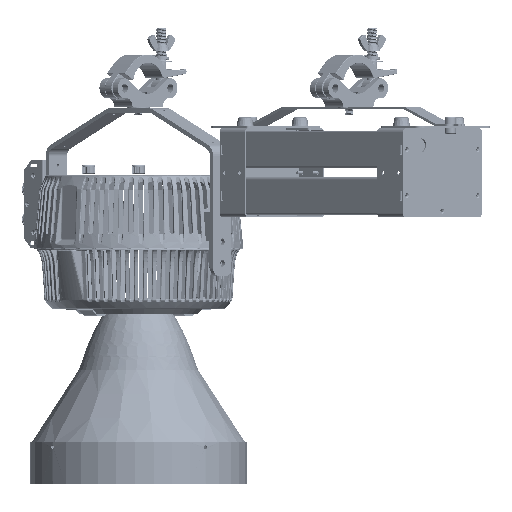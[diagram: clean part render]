
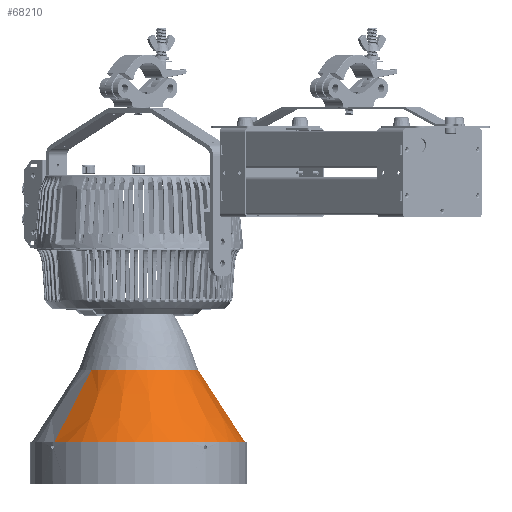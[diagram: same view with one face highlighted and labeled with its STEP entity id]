
A CAD part, front view. The second image highlights one B-rep face of the part: STEP entity #68210.
In plain terms, the highlighted conical face has half-angle 33 degrees and reference radius 123.852 mm.
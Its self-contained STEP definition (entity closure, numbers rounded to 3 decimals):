
#36346 = CARTESIAN_POINT ( 'NONE',  ( 123.852, 36.572, 0. ) ) ;
#43737 = CARTESIAN_POINT ( 'NONE',  ( -123.852, 36.572, 0. ) ) ;
#48078 = VERTEX_POINT ( 'NONE', #397910 ) ;
#68210 = ADVANCED_FACE ( 'NONE', ( #343984 ), #232076, .T. ) ;
#74261 = EDGE_CURVE ( 'NONE', #124816, #48078, #339461, .T. ) ;
#79689 = DIRECTION ( 'NONE',  ( -1., 0., 0. ) ) ;
#83424 = CARTESIAN_POINT ( 'NONE',  ( -123.852, 36.572, 0. ) ) ;
#85831 = CARTESIAN_POINT ( 'NONE',  ( 0., 36.572, 0. ) ) ;
#86327 = VECTOR ( 'NONE', #239666, 1000. ) ;
#87972 = VERTEX_POINT ( 'NONE', #36346 ) ;
#89743 = CIRCLE ( 'NONE', #222931, 123.852 ) ;
#105743 = AXIS2_PLACEMENT_3D ( 'NONE', #185868, #310734, #279497 ) ;
#124816 = VERTEX_POINT ( 'NONE', #335096 ) ;
#131497 = ORIENTED_EDGE ( 'NONE', *, *, #74261, .T. ) ;
#144467 = LINE ( 'NONE', #269344, #308736 ) ;
#147348 = VERTEX_POINT ( 'NONE', #43737 ) ;
#150636 = EDGE_CURVE ( 'NONE', #124816, #87972, #144467, .T. ) ;
#160104 = AXIS2_PLACEMENT_3D ( 'NONE', #201103, #167868, #173977 ) ;
#167868 = DIRECTION ( 'NONE',  ( 0., 1., 0. ) ) ;
#173977 = DIRECTION ( 'NONE',  ( -1., 0., 0. ) ) ;
#185868 = CARTESIAN_POINT ( 'NONE',  ( 0., 36.572, 0. ) ) ;
#201103 = CARTESIAN_POINT ( 'NONE',  ( 0., -47.228, 0. ) ) ;
#221550 = ORIENTED_EDGE ( 'NONE', *, *, #150636, .F. ) ;
#222931 = AXIS2_PLACEMENT_3D ( 'NONE', #85831, #364805, #79689 ) ;
#232076 = CONICAL_SURFACE ( 'NONE', #105743, 123.852, 0.576 ) ;
#239666 = DIRECTION ( 'NONE',  ( -0.545, 0.839, 0. ) ) ;
#269344 = CARTESIAN_POINT ( 'NONE',  ( 123.852, 36.572, 0. ) ) ;
#273994 = ORIENTED_EDGE ( 'NONE', *, *, #365077, .T. ) ;
#279497 = DIRECTION ( 'NONE',  ( -1., 0., 0. ) ) ;
#304646 = DIRECTION ( 'NONE',  ( 0.545, 0.839, 0. ) ) ;
#304739 = EDGE_CURVE ( 'NONE', #87972, #147348, #89743, .T. ) ;
#308736 = VECTOR ( 'NONE', #304646, 1000. ) ;
#310734 = DIRECTION ( 'NONE',  ( 0., 1., 0. ) ) ;
#326859 = EDGE_LOOP ( 'NONE', ( #221550, #131497, #273994, #348104 ) ) ;
#335096 = CARTESIAN_POINT ( 'NONE',  ( 69.431, -47.228, 0. ) ) ;
#339461 = CIRCLE ( 'NONE', #160104, 69.431 ) ;
#343984 = FACE_OUTER_BOUND ( 'NONE', #326859, .T. ) ;
#348104 = ORIENTED_EDGE ( 'NONE', *, *, #304739, .F. ) ;
#364805 = DIRECTION ( 'NONE',  ( 0., 1., 0. ) ) ;
#365077 = EDGE_CURVE ( 'NONE', #48078, #147348, #399763, .T. ) ;
#397910 = CARTESIAN_POINT ( 'NONE',  ( -69.431, -47.228, 0. ) ) ;
#399763 = LINE ( 'NONE', #83424, #86327 ) ;
